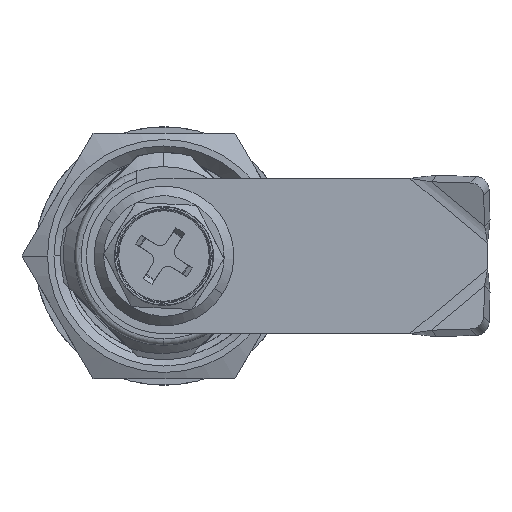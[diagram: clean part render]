
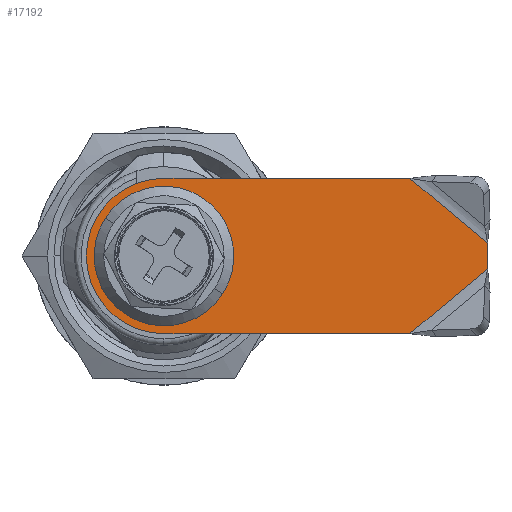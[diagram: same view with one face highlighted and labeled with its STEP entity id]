
A CAD part, front view. The second image highlights one B-rep face of the part: STEP entity #17192.
In plain terms, the highlighted planar face has unit normal (0, -1, 0).
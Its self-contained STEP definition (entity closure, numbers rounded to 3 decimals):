
#46 = VECTOR ( 'NONE', #17362, 1000. ) ;
#403 = CARTESIAN_POINT ( 'NONE',  ( -53.753, -5.149, -111.585 ) ) ;
#1751 = VECTOR ( 'NONE', #21608, 1000. ) ;
#1936 = DIRECTION ( 'NONE',  ( 0., 0., 1. ) ) ;
#2107 = CARTESIAN_POINT ( 'NONE',  ( -53.753, -5.149, -117.685 ) ) ;
#2147 = VERTEX_POINT ( 'NONE', #26919 ) ;
#2375 = LINE ( 'NONE', #403, #7930 ) ;
#3807 = VERTEX_POINT ( 'NONE', #20890 ) ;
#4010 = LINE ( 'NONE', #4588, #26137 ) ;
#4388 = LINE ( 'NONE', #29133, #13472 ) ;
#4492 = CIRCLE ( 'NONE', #17433, 6. ) ;
#4588 = CARTESIAN_POINT ( 'NONE',  ( -50.703, -5.149, -120.635 ) ) ;
#5314 = VECTOR ( 'NONE', #21333, 1000. ) ;
#5319 = ORIENTED_EDGE ( 'NONE', *, *, #27515, .F. ) ;
#6016 = CARTESIAN_POINT ( 'NONE',  ( -25.703, -5.149, -113.635 ) ) ;
#6333 = DIRECTION ( 'NONE',  ( 0., 1., 0. ) ) ;
#6368 = VECTOR ( 'NONE', #8387, 1000. ) ;
#6412 = VERTEX_POINT ( 'NONE', #2107 ) ;
#6705 = ORIENTED_EDGE ( 'NONE', *, *, #10944, .T. ) ;
#6803 = ORIENTED_EDGE ( 'NONE', *, *, #8449, .T. ) ;
#6929 = ORIENTED_EDGE ( 'NONE', *, *, #17380, .F. ) ;
#7093 = ORIENTED_EDGE ( 'NONE', *, *, #28163, .T. ) ;
#7105 = VERTEX_POINT ( 'NONE', #7601 ) ;
#7601 = CARTESIAN_POINT ( 'NONE',  ( -25.703, -5.149, -115.635 ) ) ;
#7608 = ORIENTED_EDGE ( 'NONE', *, *, #22122, .F. ) ;
#7679 = LINE ( 'NONE', #14283, #5314 ) ;
#7925 = VERTEX_POINT ( 'NONE', #24071 ) ;
#7930 = VECTOR ( 'NONE', #23218, 1000. ) ;
#7972 = CARTESIAN_POINT ( 'NONE',  ( -47.653, -5.149, -117.685 ) ) ;
#8339 = EDGE_LOOP ( 'NONE', ( #6803, #7093, #9249, #6705 ) ) ;
#8387 = DIRECTION ( 'NONE',  ( -1., 0., 0. ) ) ;
#8449 = EDGE_CURVE ( 'NONE', #9857, #2147, #2375, .T. ) ;
#8735 = DIRECTION ( 'NONE',  ( 1., 0., 0. ) ) ;
#8795 = DIRECTION ( 'NONE',  ( -1., 0., 0. ) ) ;
#9249 = ORIENTED_EDGE ( 'NONE', *, *, #21749, .T. ) ;
#9274 = EDGE_CURVE ( 'NONE', #3807, #7925, #4010, .T. ) ;
#9857 = VERTEX_POINT ( 'NONE', #17371 ) ;
#10076 = EDGE_LOOP ( 'NONE', ( #12411, #6929, #7608, #25800, #11230, #5319 ) ) ;
#10177 = LINE ( 'NONE', #28639, #6368 ) ;
#10503 = LINE ( 'NONE', #19533, #1751 ) ;
#10944 = EDGE_CURVE ( 'NONE', #6412, #9857, #10503, .T. ) ;
#11230 = ORIENTED_EDGE ( 'NONE', *, *, #27778, .F. ) ;
#12411 = ORIENTED_EDGE ( 'NONE', *, *, #24872, .F. ) ;
#13472 = VECTOR ( 'NONE', #8735, 1000. ) ;
#14283 = CARTESIAN_POINT ( 'NONE',  ( -47.653, -5.149, -117.685 ) ) ;
#15191 = DIRECTION ( 'NONE',  ( 0., 0., 1. ) ) ;
#15292 = CARTESIAN_POINT ( 'NONE',  ( -50.703, -5.149, -108.635 ) ) ;
#15491 = LINE ( 'NONE', #28690, #17282 ) ;
#15576 = CARTESIAN_POINT ( 'NONE',  ( -50.703, -5.149, -114.635 ) ) ;
#15722 = DIRECTION ( 'NONE',  ( 0., 1., 0. ) ) ;
#16828 = LINE ( 'NONE', #24438, #23055 ) ;
#17192 = ADVANCED_FACE ( 'NONE', ( #22392, #22088 ), #20437, .F. ) ;
#17282 = VECTOR ( 'NONE', #24347, 1000. ) ;
#17362 = DIRECTION ( 'NONE',  ( -0.768, 0., -0.64 ) ) ;
#17371 = CARTESIAN_POINT ( 'NONE',  ( -53.753, -5.149, -111.585 ) ) ;
#17380 = EDGE_CURVE ( 'NONE', #26375, #22547, #4388, .T. ) ;
#17433 = AXIS2_PLACEMENT_3D ( 'NONE', #15576, #15722, #1936 ) ;
#18717 = VERTEX_POINT ( 'NONE', #6016 ) ;
#19246 = DIRECTION ( 'NONE',  ( 0.768, 0., -0.64 ) ) ;
#19533 = CARTESIAN_POINT ( 'NONE',  ( -53.753, -5.149, -117.685 ) ) ;
#19620 = LINE ( 'NONE', #28742, #46 ) ;
#20437 = PLANE ( 'NONE',  #22582 ) ;
#20890 = CARTESIAN_POINT ( 'NONE',  ( -31.703, -5.149, -120.635 ) ) ;
#21281 = VERTEX_POINT ( 'NONE', #7972 ) ;
#21333 = DIRECTION ( 'NONE',  ( 0., 0., -1. ) ) ;
#21608 = DIRECTION ( 'NONE',  ( 0., 0., 1. ) ) ;
#21749 = EDGE_CURVE ( 'NONE', #21281, #6412, #10177, .T. ) ;
#22088 = FACE_BOUND ( 'NONE', #8339, .T. ) ;
#22122 = EDGE_CURVE ( 'NONE', #7925, #26375, #4492, .T. ) ;
#22392 = FACE_OUTER_BOUND ( 'NONE', #10076, .T. ) ;
#22547 = VERTEX_POINT ( 'NONE', #29496 ) ;
#22582 = AXIS2_PLACEMENT_3D ( 'NONE', #27031, #6333, #15191 ) ;
#23055 = VECTOR ( 'NONE', #19246, 1000. ) ;
#23218 = DIRECTION ( 'NONE',  ( 1., 0., 0. ) ) ;
#24071 = CARTESIAN_POINT ( 'NONE',  ( -50.703, -5.149, -120.635 ) ) ;
#24347 = DIRECTION ( 'NONE',  ( 0., 0., -1. ) ) ;
#24438 = CARTESIAN_POINT ( 'NONE',  ( -39.965, -5.149, -101.749 ) ) ;
#24872 = EDGE_CURVE ( 'NONE', #22547, #18717, #16828, .T. ) ;
#25800 = ORIENTED_EDGE ( 'NONE', *, *, #9274, .F. ) ;
#26137 = VECTOR ( 'NONE', #8795, 1000. ) ;
#26375 = VERTEX_POINT ( 'NONE', #15292 ) ;
#26919 = CARTESIAN_POINT ( 'NONE',  ( -47.653, -5.149, -111.585 ) ) ;
#27031 = CARTESIAN_POINT ( 'NONE',  ( -50.703, -5.149, -114.635 ) ) ;
#27515 = EDGE_CURVE ( 'NONE', #18717, #7105, #15491, .T. ) ;
#27778 = EDGE_CURVE ( 'NONE', #7105, #3807, #19620, .T. ) ;
#28163 = EDGE_CURVE ( 'NONE', #2147, #21281, #7679, .T. ) ;
#28639 = CARTESIAN_POINT ( 'NONE',  ( -53.753, -5.149, -117.685 ) ) ;
#28690 = CARTESIAN_POINT ( 'NONE',  ( -25.703, -5.149, -120.635 ) ) ;
#28742 = CARTESIAN_POINT ( 'NONE',  ( -39.965, -5.149, -127.52 ) ) ;
#29133 = CARTESIAN_POINT ( 'NONE',  ( -25.703, -5.149, -108.635 ) ) ;
#29496 = CARTESIAN_POINT ( 'NONE',  ( -31.703, -5.149, -108.635 ) ) ;
